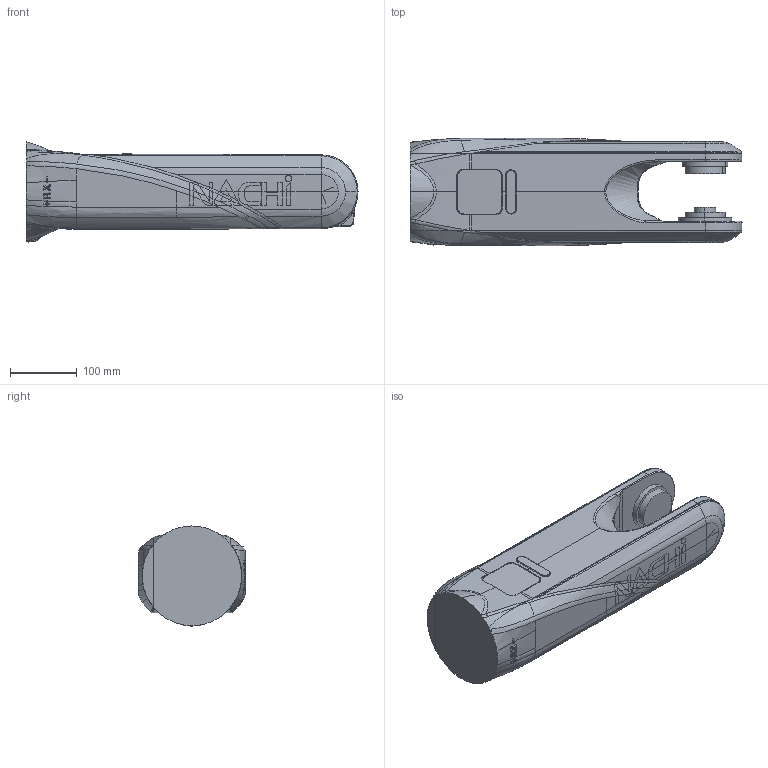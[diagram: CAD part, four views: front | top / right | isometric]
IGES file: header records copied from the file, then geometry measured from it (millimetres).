
Start section: START RECORD GO HERE.
Global section: file name: 50_UMMZ12_W1_ARM_ASSY.igs; native system: DASSAULT SYSTEMES CATIA Version 5-6 Release 2012 - www.3ds.com; preprocessor: V5-6R2012_5.22.4.0.11-16-2012.22.00; author: RBT00348; organization: NACHI-JP; date: 20170720.194304; units: millimetre
Bounding box: 496.15 x 160 x 149.53 mm (x, y, z)
Volume: 6620808.6 mm3; surface area: 274962.3 mm2
Topology: 1 solids, 1 shells, 974 faces, 2563 edges, 1554 vertices
Faces by surface type: bspline 974
